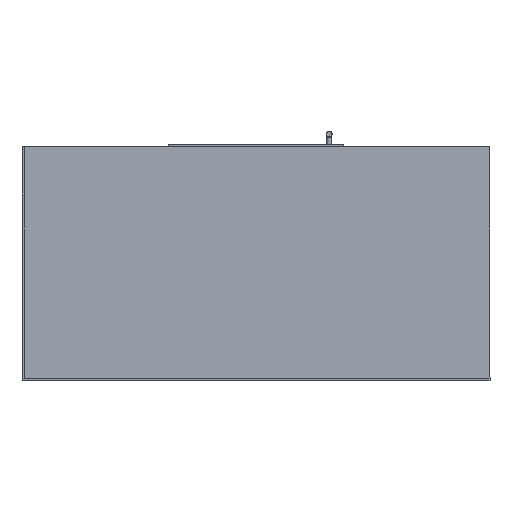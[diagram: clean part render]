
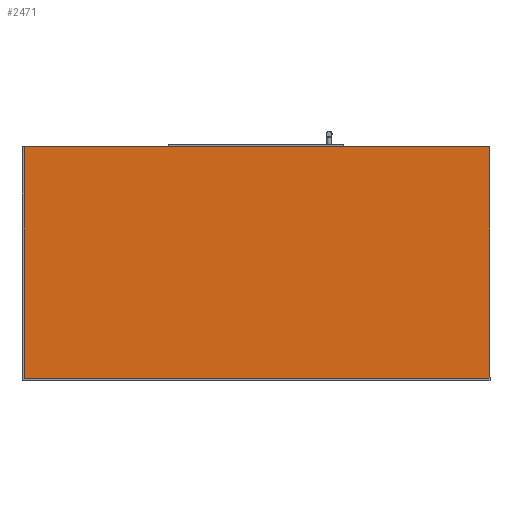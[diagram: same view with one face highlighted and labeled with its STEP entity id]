
A CAD part, front view. The second image highlights one B-rep face of the part: STEP entity #2471.
In plain terms, the highlighted planar face has unit normal (0, -1, 0).
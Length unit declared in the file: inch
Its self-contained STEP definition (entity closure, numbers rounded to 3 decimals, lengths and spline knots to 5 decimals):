
#38=PLANE('',#2650);
#219=LINE('',#4582,#528);
#223=LINE('',#4589,#532);
#224=LINE('',#4592,#533);
#225=LINE('',#4593,#534);
#528=VECTOR('',#2961,0.3937);
#532=VECTOR('',#2967,0.3937);
#533=VECTOR('',#2970,0.3937);
#534=VECTOR('',#2971,0.3937);
#801=FACE_OUTER_BOUND('',#931,.T.);
#931=EDGE_LOOP('',(#1882,#1883,#1884,#1885));
#1165=VERTEX_POINT('',#4579);
#1166=VERTEX_POINT('',#4581);
#1168=VERTEX_POINT('',#4587);
#1169=VERTEX_POINT('',#4591);
#1433=EDGE_CURVE('',#1166,#1165,#219,.T.);
#1437=EDGE_CURVE('',#1165,#1168,#223,.T.);
#1438=EDGE_CURVE('',#1169,#1168,#224,.T.);
#1439=EDGE_CURVE('',#1166,#1169,#225,.T.);
#1882=ORIENTED_EDGE('',*,*,#1433,.T.);
#1883=ORIENTED_EDGE('',*,*,#1437,.T.);
#1884=ORIENTED_EDGE('',*,*,#1438,.F.);
#1885=ORIENTED_EDGE('',*,*,#1439,.F.);
#2471=ADVANCED_FACE('',(#801),#38,.T.);
#2650=AXIS2_PLACEMENT_3D('',#4590,#2968,#2969);
#2961=DIRECTION('',(-1.,0.,0.));
#2967=DIRECTION('',(0.,0.,-1.));
#2968=DIRECTION('center_axis',(0.,-1.,0.));
#2969=DIRECTION('ref_axis',(-1.,0.,0.));
#2970=DIRECTION('',(-1.,0.,0.));
#2971=DIRECTION('',(0.,0.,-1.));
#4579=CARTESIAN_POINT('',(155.03171,-0.375,10.4922));
#4581=CARTESIAN_POINT('',(250.53171,-0.375,10.4922));
#4582=CARTESIAN_POINT('',(250.53171,-0.375,10.4922));
#4587=CARTESIAN_POINT('',(155.03171,-0.375,-37.0078));
#4589=CARTESIAN_POINT('',(155.03171,-0.375,10.4922));
#4590=CARTESIAN_POINT('Origin',(250.53171,-0.375,10.4922));
#4591=CARTESIAN_POINT('',(250.53171,-0.375,-37.0078));
#4592=CARTESIAN_POINT('',(250.53171,-0.375,-37.0078));
#4593=CARTESIAN_POINT('',(250.53171,-0.375,10.4922));
